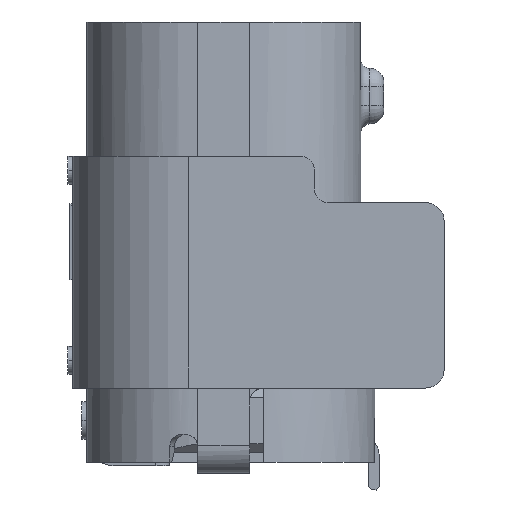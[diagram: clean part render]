
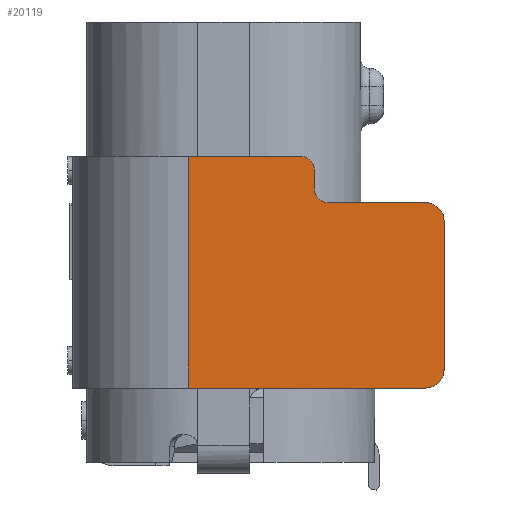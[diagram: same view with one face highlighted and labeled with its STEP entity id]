
A CAD part, left-side view. The second image highlights one B-rep face of the part: STEP entity #20119.
In plain terms, the highlighted planar face has unit normal (-1, 0, 0).
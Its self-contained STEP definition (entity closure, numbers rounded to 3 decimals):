
#194 = VECTOR ( 'NONE', #24073, 1000. ) ;
#264 = LINE ( 'NONE', #9256, #27551 ) ;
#419 = DIRECTION ( 'NONE',  ( 0., 1., 0. ) ) ;
#767 = DIRECTION ( 'NONE',  ( 0., 0., 1. ) ) ;
#1329 = FACE_OUTER_BOUND ( 'NONE', #15283, .T. ) ;
#1668 = VECTOR ( 'NONE', #15289, 1000. ) ;
#2026 = EDGE_CURVE ( 'NONE', #8926, #19537, #27193, .T. ) ;
#2566 = ORIENTED_EDGE ( 'NONE', *, *, #11960, .F. ) ;
#2572 = AXIS2_PLACEMENT_3D ( 'NONE', #15255, #8788, #24238 ) ;
#2999 = VECTOR ( 'NONE', #14181, 1000. ) ;
#3089 = VERTEX_POINT ( 'NONE', #17103 ) ;
#3211 = ORIENTED_EDGE ( 'NONE', *, *, #15407, .F. ) ;
#3346 = CIRCLE ( 'NONE', #7128, 0.15 ) ;
#3414 = CARTESIAN_POINT ( 'NONE',  ( -1.47, 0.9, -1.13 ) ) ;
#3647 = LINE ( 'NONE', #14853, #24105 ) ;
#3789 = CARTESIAN_POINT ( 'NONE',  ( -1.47, 0.75, -1.13 ) ) ;
#4360 = DIRECTION ( 'NONE',  ( 0., -1., 0. ) ) ;
#4553 = EDGE_CURVE ( 'NONE', #5788, #8926, #28271, .T. ) ;
#4685 = DIRECTION ( 'NONE',  ( -1., 0., 0. ) ) ;
#4859 = VECTOR ( 'NONE', #24834, 1000. ) ;
#5117 = EDGE_CURVE ( 'NONE', #22300, #25919, #24669, .T. ) ;
#5187 = CARTESIAN_POINT ( 'NONE',  ( -1.47, 2.11, -3.48 ) ) ;
#5348 = DIRECTION ( 'NONE',  ( 0., 0., 1. ) ) ;
#5788 = VERTEX_POINT ( 'NONE', #17294 ) ;
#5925 = ORIENTED_EDGE ( 'NONE', *, *, #4553, .F. ) ;
#6645 = EDGE_CURVE ( 'NONE', #7593, #19213, #8648, .T. ) ;
#7128 = AXIS2_PLACEMENT_3D ( 'NONE', #3414, #14489, #5348 ) ;
#7148 = CARTESIAN_POINT ( 'NONE',  ( -1.47, 2.11, -0.98 ) ) ;
#7593 = VERTEX_POINT ( 'NONE', #15465 ) ;
#8098 = DIRECTION ( 'NONE',  ( 0., 1., 0. ) ) ;
#8648 = LINE ( 'NONE', #10716, #25438 ) ;
#8788 = DIRECTION ( 'NONE',  ( 1., 0., 0. ) ) ;
#8926 = VERTEX_POINT ( 'NONE', #20320 ) ;
#9183 = EDGE_CURVE ( 'NONE', #25919, #20567, #27342, .T. ) ;
#9229 = CARTESIAN_POINT ( 'NONE',  ( -1.47, -0.65, -1.68 ) ) ;
#9256 = CARTESIAN_POINT ( 'NONE',  ( -1.47, 1.3, -3.48 ) ) ;
#9713 = EDGE_CURVE ( 'NONE', #19537, #3089, #3346, .T. ) ;
#10013 = PLANE ( 'NONE',  #17129 ) ;
#10604 = ORIENTED_EDGE ( 'NONE', *, *, #5117, .F. ) ;
#10656 = VERTEX_POINT ( 'NONE', #15128 ) ;
#10716 = CARTESIAN_POINT ( 'NONE',  ( -1.47, 0.6, -1.48 ) ) ;
#11424 = DIRECTION ( 'NONE',  ( 0., -1., 0. ) ) ;
#11664 = CARTESIAN_POINT ( 'NONE',  ( -1.47, 1.13, -3.48 ) ) ;
#11799 = EDGE_CURVE ( 'NONE', #3089, #26764, #28693, .T. ) ;
#11960 = EDGE_CURVE ( 'NONE', #10656, #5788, #264, .T. ) ;
#12046 = VECTOR ( 'NONE', #11424, 1000. ) ;
#12192 = ORIENTED_EDGE ( 'NONE', *, *, #9183, .F. ) ;
#12810 = EDGE_CURVE ( 'NONE', #19213, #27907, #18489, .T. ) ;
#14181 = DIRECTION ( 'NONE',  ( 0., 0., 1. ) ) ;
#14200 = CARTESIAN_POINT ( 'NONE',  ( -1.47, -0.45, -3.48 ) ) ;
#14489 = DIRECTION ( 'NONE',  ( 1., 0., 0. ) ) ;
#14853 = CARTESIAN_POINT ( 'NONE',  ( -1.47, -0.65, -3.28 ) ) ;
#15096 = LINE ( 'NONE', #15244, #194 ) ;
#15128 = CARTESIAN_POINT ( 'NONE',  ( -1.47, 1.3, -3.48 ) ) ;
#15244 = CARTESIAN_POINT ( 'NONE',  ( -1.47, 1.13, -3.48 ) ) ;
#15255 = CARTESIAN_POINT ( 'NONE',  ( -1.47, -0.45, -3.28 ) ) ;
#15283 = EDGE_LOOP ( 'NONE', ( #12192, #10604, #20140, #27284, #19576, #23598, #24335, #20602, #18307, #5925, #2566, #3211 ) ) ;
#15289 = DIRECTION ( 'NONE',  ( 0., 0., -1. ) ) ;
#15407 = EDGE_CURVE ( 'NONE', #20567, #10656, #15096, .T. ) ;
#15465 = CARTESIAN_POINT ( 'NONE',  ( -1.47, 0.6, -1.48 ) ) ;
#15709 = CARTESIAN_POINT ( 'NONE',  ( -1.47, -0.45, -1.48 ) ) ;
#15744 = CARTESIAN_POINT ( 'NONE',  ( -1.47, 0.6, -1.33 ) ) ;
#16132 = AXIS2_PLACEMENT_3D ( 'NONE', #23147, #25065, #767 ) ;
#16296 = CARTESIAN_POINT ( 'NONE',  ( -1.47, -0.45, -3.48 ) ) ;
#16650 = DIRECTION ( 'NONE',  ( 1., 0., 0. ) ) ;
#16717 = CIRCLE ( 'NONE', #27541, 0.15 ) ;
#17103 = CARTESIAN_POINT ( 'NONE',  ( -1.47, 0.75, -1.13 ) ) ;
#17129 = AXIS2_PLACEMENT_3D ( 'NONE', #18996, #16650, #8098 ) ;
#17294 = CARTESIAN_POINT ( 'NONE',  ( -1.47, 2.11, -3.48 ) ) ;
#17343 = CARTESIAN_POINT ( 'NONE',  ( -1.47, 0.75, -1.33 ) ) ;
#18227 = DIRECTION ( 'NONE',  ( 0., 1., 0. ) ) ;
#18307 = ORIENTED_EDGE ( 'NONE', *, *, #2026, .F. ) ;
#18489 = CIRCLE ( 'NONE', #16132, 0.2 ) ;
#18996 = CARTESIAN_POINT ( 'NONE',  ( -1.47, 0.73, -2.23 ) ) ;
#19213 = VERTEX_POINT ( 'NONE', #15709 ) ;
#19537 = VERTEX_POINT ( 'NONE', #27173 ) ;
#19576 = ORIENTED_EDGE ( 'NONE', *, *, #6645, .F. ) ;
#20119 = ADVANCED_FACE ( 'NONE', ( #1329 ), #10013, .F. ) ;
#20140 = ORIENTED_EDGE ( 'NONE', *, *, #25842, .T. ) ;
#20320 = CARTESIAN_POINT ( 'NONE',  ( -1.47, 2.11, -0.98 ) ) ;
#20567 = VERTEX_POINT ( 'NONE', #11664 ) ;
#20581 = CARTESIAN_POINT ( 'NONE',  ( -1.47, -0.65, -3.28 ) ) ;
#20602 = ORIENTED_EDGE ( 'NONE', *, *, #9713, .F. ) ;
#21922 = DIRECTION ( 'NONE',  ( 0., 0., 1. ) ) ;
#22300 = VERTEX_POINT ( 'NONE', #20581 ) ;
#23147 = CARTESIAN_POINT ( 'NONE',  ( -1.47, -0.45, -1.68 ) ) ;
#23598 = ORIENTED_EDGE ( 'NONE', *, *, #28771, .F. ) ;
#24073 = DIRECTION ( 'NONE',  ( 0., 1., 0. ) ) ;
#24105 = VECTOR ( 'NONE', #21922, 1000. ) ;
#24238 = DIRECTION ( 'NONE',  ( 0., -1., 0. ) ) ;
#24335 = ORIENTED_EDGE ( 'NONE', *, *, #11799, .F. ) ;
#24669 = CIRCLE ( 'NONE', #2572, 0.2 ) ;
#24834 = DIRECTION ( 'NONE',  ( 0., 1., 0. ) ) ;
#25065 = DIRECTION ( 'NONE',  ( 1., 0., 0. ) ) ;
#25438 = VECTOR ( 'NONE', #4360, 1000. ) ;
#25842 = EDGE_CURVE ( 'NONE', #22300, #27907, #3647, .T. ) ;
#25919 = VERTEX_POINT ( 'NONE', #14200 ) ;
#26764 = VERTEX_POINT ( 'NONE', #17343 ) ;
#27173 = CARTESIAN_POINT ( 'NONE',  ( -1.47, 0.9, -0.98 ) ) ;
#27193 = LINE ( 'NONE', #7148, #12046 ) ;
#27284 = ORIENTED_EDGE ( 'NONE', *, *, #12810, .F. ) ;
#27342 = LINE ( 'NONE', #16296, #4859 ) ;
#27541 = AXIS2_PLACEMENT_3D ( 'NONE', #15744, #4685, #419 ) ;
#27551 = VECTOR ( 'NONE', #18227, 1000. ) ;
#27907 = VERTEX_POINT ( 'NONE', #9229 ) ;
#28271 = LINE ( 'NONE', #5187, #2999 ) ;
#28693 = LINE ( 'NONE', #3789, #1668 ) ;
#28771 = EDGE_CURVE ( 'NONE', #26764, #7593, #16717, .T. ) ;
